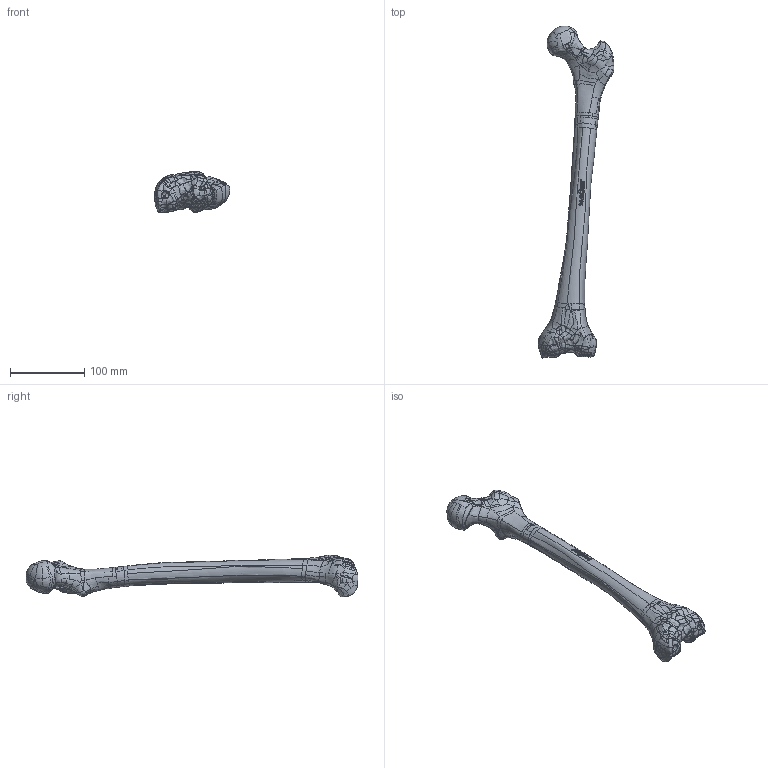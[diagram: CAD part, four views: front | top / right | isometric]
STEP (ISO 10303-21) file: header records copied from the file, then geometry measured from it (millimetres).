
FILE_DESCRIPTION (( 'STEP AP203' ), '1' );
FILE_NAME ('1121-8.STEP', '2025-05-27T20:47:52', ( '' ), ( '' ), 'SwSTEP 2.0', 'SolidWorks 2024', '' );
FILE_SCHEMA (( 'CONFIG_CONTROL_DESIGN' ));
Products named in the file (1): 1121-8
Bounding box: 102.42 x 448.26 x 56.18 mm (x, y, z)
Volume: 465225.5 mm3; surface area: 58719.3 mm2
Topology: 1 solids, 1 shells, 632 faces, 1624 edges, 1008 vertices
Faces by surface type: bspline 629, plane 3
Entity records: 331057 total; most frequent: CARTESIAN_POINT 320904, ORIENTED_EDGE 3248, B_SPLINE_CURVE_WITH_KNOTS 1624, EDGE_CURVE 1624, VERTEX_POINT 1008, EDGE_LOOP 646, FACE_OUTER_BOUND 632, ADVANCED_FACE 632
